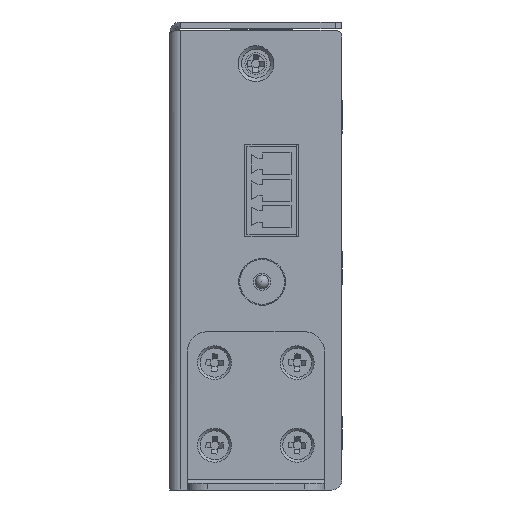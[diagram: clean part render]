
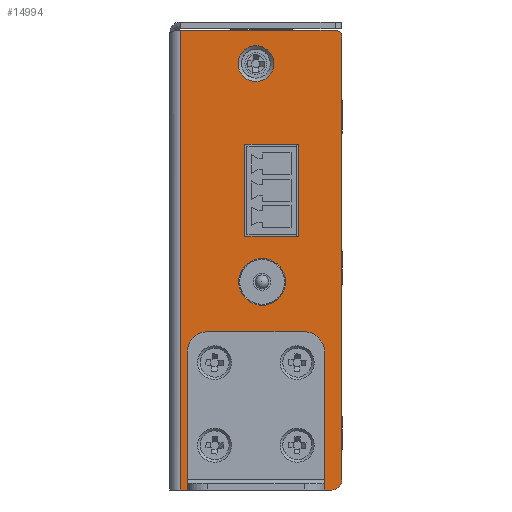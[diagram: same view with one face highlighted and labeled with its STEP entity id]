
A CAD part, left-side view. The second image highlights one B-rep face of the part: STEP entity #14994.
In plain terms, the highlighted planar face has unit normal (-1, 0, 0).
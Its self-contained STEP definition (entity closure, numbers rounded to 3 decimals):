
#879=FACE_BOUND('',#2722,.T.);
#880=FACE_BOUND('',#2723,.T.);
#881=FACE_BOUND('',#2724,.T.);
#882=FACE_BOUND('',#2725,.T.);
#883=FACE_BOUND('',#2726,.T.);
#884=FACE_BOUND('',#2727,.T.);
#885=FACE_BOUND('',#2728,.T.);
#886=FACE_BOUND('',#2729,.T.);
#1116=CIRCLE('',#16085,1.);
#1117=CIRCLE('',#16086,1.5);
#1118=CIRCLE('',#16087,1.25);
#1119=CIRCLE('',#16088,1.25);
#1120=CIRCLE('',#16089,1.25);
#1121=CIRCLE('',#16090,2.6);
#1122=CIRCLE('',#16091,2.6);
#1123=CIRCLE('',#16092,3.4);
#1124=CIRCLE('',#16093,1.25);
#1866=FACE_OUTER_BOUND('',#2721,.T.);
#2721=EDGE_LOOP('',(#11318,#11319,#11320,#11321,#11322,#11323));
#2722=EDGE_LOOP('',(#11324));
#2723=EDGE_LOOP('',(#11325));
#2724=EDGE_LOOP('',(#11326));
#2725=EDGE_LOOP('',(#11327));
#2726=EDGE_LOOP('',(#11328));
#2727=EDGE_LOOP('',(#11329,#11330,#11331,#11332));
#2728=EDGE_LOOP('',(#11333));
#2729=EDGE_LOOP('',(#11334));
#3961=LINE('',#26709,#5441);
#3962=LINE('',#26714,#5442);
#3963=LINE('',#26716,#5443);
#3964=LINE('',#26719,#5444);
#3965=LINE('',#26732,#5445);
#3966=LINE('',#26734,#5446);
#3967=LINE('',#26736,#5447);
#3968=LINE('',#26737,#5448);
#5441=VECTOR('',#18437,66.8);
#5442=VECTOR('',#18442,22.5);
#5443=VECTOR('',#18443,22.);
#5444=VECTOR('',#18446,64.3);
#5445=VECTOR('',#18457,13.4);
#5446=VECTOR('',#18458,7.8);
#5447=VECTOR('',#18459,13.4);
#5448=VECTOR('',#18460,7.8);
#6835=VERTEX_POINT('',#26640);
#6837=VERTEX_POINT('',#26702);
#6839=VERTEX_POINT('',#26711);
#6840=VERTEX_POINT('',#26712);
#6841=VERTEX_POINT('',#26715);
#6842=VERTEX_POINT('',#26717);
#6843=VERTEX_POINT('',#26720);
#6844=VERTEX_POINT('',#26722);
#6845=VERTEX_POINT('',#26724);
#6846=VERTEX_POINT('',#26726);
#6847=VERTEX_POINT('',#26728);
#6848=VERTEX_POINT('',#26730);
#6849=VERTEX_POINT('',#26731);
#6850=VERTEX_POINT('',#26733);
#6851=VERTEX_POINT('',#26735);
#6852=VERTEX_POINT('',#26738);
#6853=VERTEX_POINT('',#26740);
#8479=EDGE_CURVE('',#6835,#6837,#3961,.T.);
#8480=EDGE_CURVE('',#6839,#6840,#1116,.T.);
#8481=EDGE_CURVE('',#6835,#6840,#3962,.T.);
#8482=EDGE_CURVE('',#6837,#6841,#3963,.T.);
#8483=EDGE_CURVE('',#6841,#6842,#1117,.T.);
#8484=EDGE_CURVE('',#6842,#6839,#3964,.T.);
#8485=EDGE_CURVE('',#6843,#6843,#1118,.T.);
#8486=EDGE_CURVE('',#6844,#6844,#1119,.T.);
#8487=EDGE_CURVE('',#6845,#6845,#1120,.T.);
#8488=EDGE_CURVE('',#6846,#6846,#1121,.T.);
#8489=EDGE_CURVE('',#6847,#6847,#1122,.T.);
#8490=EDGE_CURVE('',#6848,#6849,#3965,.T.);
#8491=EDGE_CURVE('',#6849,#6850,#3966,.T.);
#8492=EDGE_CURVE('',#6850,#6851,#3967,.T.);
#8493=EDGE_CURVE('',#6851,#6848,#3968,.T.);
#8494=EDGE_CURVE('',#6852,#6852,#1123,.T.);
#8495=EDGE_CURVE('',#6853,#6853,#1124,.T.);
#11318=ORIENTED_EDGE('',*,*,#8480,.T.);
#11319=ORIENTED_EDGE('',*,*,#8481,.F.);
#11320=ORIENTED_EDGE('',*,*,#8479,.T.);
#11321=ORIENTED_EDGE('',*,*,#8482,.T.);
#11322=ORIENTED_EDGE('',*,*,#8483,.T.);
#11323=ORIENTED_EDGE('',*,*,#8484,.T.);
#11324=ORIENTED_EDGE('',*,*,#8485,.T.);
#11325=ORIENTED_EDGE('',*,*,#8486,.T.);
#11326=ORIENTED_EDGE('',*,*,#8487,.T.);
#11327=ORIENTED_EDGE('',*,*,#8488,.T.);
#11328=ORIENTED_EDGE('',*,*,#8489,.T.);
#11329=ORIENTED_EDGE('',*,*,#8490,.T.);
#11330=ORIENTED_EDGE('',*,*,#8491,.T.);
#11331=ORIENTED_EDGE('',*,*,#8492,.T.);
#11332=ORIENTED_EDGE('',*,*,#8493,.T.);
#11333=ORIENTED_EDGE('',*,*,#8494,.F.);
#11334=ORIENTED_EDGE('',*,*,#8495,.T.);
#14427=PLANE('',#16084);
#14994=ADVANCED_FACE('',(#1866,#879,#880,#881,#882,#883,#884,#885,#886),
#14427,.T.);
#16084=AXIS2_PLACEMENT_3D('',#26710,#18438,#18439);
#16085=AXIS2_PLACEMENT_3D('',#26713,#18440,#18441);
#16086=AXIS2_PLACEMENT_3D('',#26718,#18444,#18445);
#16087=AXIS2_PLACEMENT_3D('',#26721,#18447,#18448);
#16088=AXIS2_PLACEMENT_3D('',#26723,#18449,#18450);
#16089=AXIS2_PLACEMENT_3D('',#26725,#18451,#18452);
#16090=AXIS2_PLACEMENT_3D('',#26727,#18453,#18454);
#16091=AXIS2_PLACEMENT_3D('',#26729,#18455,#18456);
#16092=AXIS2_PLACEMENT_3D('',#26739,#18461,#18462);
#16093=AXIS2_PLACEMENT_3D('',#26741,#18463,#18464);
#18437=DIRECTION('',(0.,0.,-1.));
#18438=DIRECTION('center_axis',(-1.,0.,0.));
#18439=DIRECTION('ref_axis',(0.,0.,-1.));
#18440=DIRECTION('center_axis',(-1.,0.,0.));
#18441=DIRECTION('ref_axis',(0.,-1.,0.));
#18442=DIRECTION('',(0.,-1.,0.));
#18443=DIRECTION('',(0.,-1.,0.));
#18444=DIRECTION('center_axis',(-1.,0.,0.));
#18445=DIRECTION('ref_axis',(0.,0.,-1.));
#18446=DIRECTION('',(0.,0.,1.));
#18447=DIRECTION('center_axis',(1.,0.,0.));
#18448=DIRECTION('ref_axis',(0.,0.,1.));
#18449=DIRECTION('center_axis',(1.,0.,0.));
#18450=DIRECTION('ref_axis',(0.,0.,1.));
#18451=DIRECTION('center_axis',(1.,0.,0.));
#18452=DIRECTION('ref_axis',(0.,0.,1.));
#18453=DIRECTION('center_axis',(1.,0.,0.));
#18454=DIRECTION('ref_axis',(0.,0.,-1.));
#18455=DIRECTION('center_axis',(1.,0.,0.));
#18456=DIRECTION('ref_axis',(0.,0.,-1.));
#18457=DIRECTION('',(0.,0.,1.));
#18458=DIRECTION('',(0.,-1.,0.));
#18459=DIRECTION('',(0.,0.,-1.));
#18460=DIRECTION('',(0.,1.,0.));
#18461=DIRECTION('center_axis',(-1.,0.,0.));
#18462=DIRECTION('ref_axis',(0.,0.,-1.));
#18463=DIRECTION('center_axis',(1.,0.,0.));
#18464=DIRECTION('ref_axis',(0.,0.,1.));
#26640=CARTESIAN_POINT('',(-80.5,23.5,32.8));
#26702=CARTESIAN_POINT('',(-80.5,23.5,-34.));
#26709=CARTESIAN_POINT('',(-80.5,23.5,32.8));
#26710=CARTESIAN_POINT('Origin',(-80.5,25.,-34.));
#26711=CARTESIAN_POINT('',(-80.5,0.,31.8));
#26712=CARTESIAN_POINT('',(-80.5,1.,32.8));
#26713=CARTESIAN_POINT('Origin',(-80.5,1.,31.8));
#26714=CARTESIAN_POINT('',(-80.5,23.5,32.8));
#26715=CARTESIAN_POINT('',(-80.5,1.5,-34.));
#26716=CARTESIAN_POINT('',(-80.5,23.5,-34.));
#26717=CARTESIAN_POINT('',(-80.5,0.,-32.5));
#26718=CARTESIAN_POINT('Origin',(-80.5,1.5,-32.5));
#26719=CARTESIAN_POINT('',(-80.5,0.,-32.5));
#26720=CARTESIAN_POINT('',(-80.5,6.5,-16.75));
#26721=CARTESIAN_POINT('Origin',(-80.5,6.5,-15.5));
#26722=CARTESIAN_POINT('',(-80.5,18.5,-28.75));
#26723=CARTESIAN_POINT('Origin',(-80.5,18.5,-27.5));
#26724=CARTESIAN_POINT('',(-80.5,6.5,-28.75));
#26725=CARTESIAN_POINT('Origin',(-80.5,6.5,-27.5));
#26726=CARTESIAN_POINT('',(-80.5,12.5,-25.35));
#26727=CARTESIAN_POINT('Origin',(-80.5,12.5,-27.95));
#26728=CARTESIAN_POINT('',(-80.5,12.5,30.55));
#26729=CARTESIAN_POINT('Origin',(-80.5,12.5,27.95));
#26730=CARTESIAN_POINT('',(-80.5,14.1,2.87));
#26731=CARTESIAN_POINT('',(-80.5,14.1,16.27));
#26732=CARTESIAN_POINT('',(-80.5,14.1,2.87));
#26733=CARTESIAN_POINT('',(-80.5,6.3,16.27));
#26734=CARTESIAN_POINT('',(-80.5,14.1,16.27));
#26735=CARTESIAN_POINT('',(-80.5,6.3,2.87));
#26736=CARTESIAN_POINT('',(-80.5,6.3,16.27));
#26737=CARTESIAN_POINT('',(-80.5,6.3,2.87));
#26738=CARTESIAN_POINT('',(-80.5,11.6,-0.36));
#26739=CARTESIAN_POINT('Origin',(-80.5,11.6,-3.76));
#26740=CARTESIAN_POINT('',(-80.5,18.5,-16.75));
#26741=CARTESIAN_POINT('Origin',(-80.5,18.5,-15.5));
